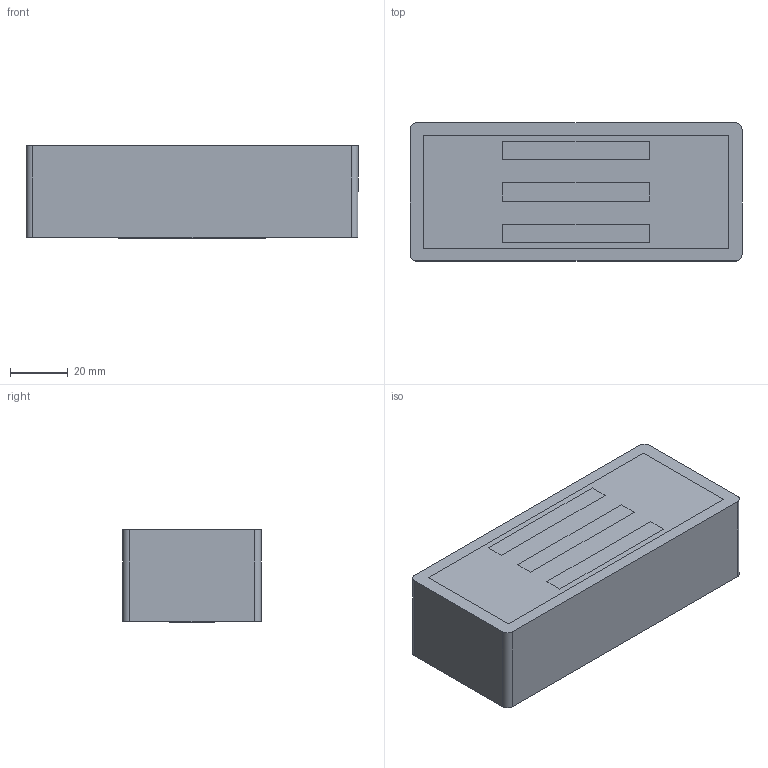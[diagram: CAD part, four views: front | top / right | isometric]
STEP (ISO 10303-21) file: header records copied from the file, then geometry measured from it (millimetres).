
FILE_DESCRIPTION (( 'STEP AP203' ), '1' );
FILE_NAME ('AC2203.STEP', '2018-07-26T17:43:16', ( '' ), ( '' ), 'SwSTEP 2.0', 'SolidWorks 2015', '' );
FILE_SCHEMA (( 'CONFIG_CONTROL_DESIGN' ));
Length unit declared in the file: inch
Products named in the file (1): AC2203
Bounding box: 114.76 x 47.75 x 32 mm (x, y, z)
Volume: 160804.3 mm3; surface area: 59911.3 mm2
Topology: 6 solids, 6 shells, 549 faces, 1431 edges, 954 vertices
Faces by surface type: plane 376, bspline 161, cylinder 12
Entity records: 26476 total; most frequent: CARTESIAN_POINT 13968, ORIENTED_EDGE 2862, DIRECTION 1911, EDGE_CURVE 1431, VECTOR 1085, LINE 1085, VERTEX_POINT 954, EDGE_LOOP 615
